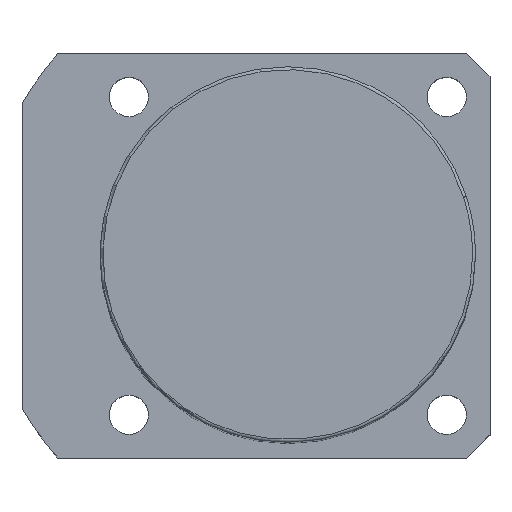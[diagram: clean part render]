
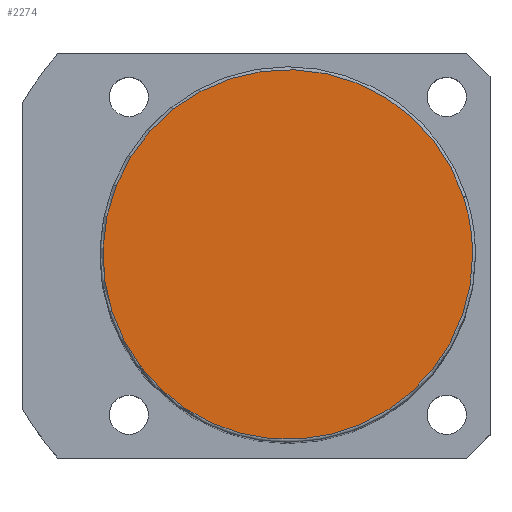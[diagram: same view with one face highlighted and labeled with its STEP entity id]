
A CAD part, top view. The second image highlights one B-rep face of the part: STEP entity #2274.
In plain terms, the highlighted planar face has unit normal (0, 0, 1).
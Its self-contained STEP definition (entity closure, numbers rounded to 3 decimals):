
#2207=CARTESIAN_POINT('',(30.434,9.889,146.0));
#2208=VERTEX_POINT('',#2207);
#2226=CARTESIAN_POINT('',(-30.434,-9.889,146.0));
#2227=VERTEX_POINT('',#2226);
#2235=CARTESIAN_POINT('',(0.0,0.0,146.0));
#2236=DIRECTION('',(0.0,0.0,1.0));
#2237=DIRECTION('',(1.0,0.0,0.0));
#2238=AXIS2_PLACEMENT_3D('',#2235,#2236,#2237);
#2239=CIRCLE('',#2238,32.0);
#2240=EDGE_CURVE('no 2119',#2208,#2227,#2239,.T.);
#2250=CARTESIAN_POINT('',(32.0,0.0,146.0));
#2251=VERTEX_POINT('',#2250);
#2252=CARTESIAN_POINT('',(0.0,0.0,146.0));
#2253=DIRECTION('',(0.0,0.0,1.0));
#2254=DIRECTION('',(1.0,0.0,0.0));
#2255=AXIS2_PLACEMENT_3D('',#2252,#2253,#2254);
#2256=CIRCLE('',#2255,32.0);
#2257=EDGE_CURVE('no 2128',#2251,#2208,#2256,.T.);
#2258=ORIENTED_EDGE('',*,*,#2257,.T.);
#2259=ORIENTED_EDGE('',*,*,#2240,.T.);
#2260=CARTESIAN_POINT('',(0.0,0.0,146.0));
#2261=DIRECTION('',(0.0,0.0,1.0));
#2262=DIRECTION('',(1.0,0.0,0.0));
#2263=AXIS2_PLACEMENT_3D('',#2260,#2261,#2262);
#2264=CIRCLE('',#2263,32.0);
#2265=EDGE_CURVE('no 2134',#2227,#2251,#2264,.T.);
#2266=ORIENTED_EDGE('',*,*,#2265,.T.);
#2267=EDGE_LOOP('',(#2258,#2259,#2266));
#2268=FACE_OUTER_BOUND('',#2267,.T.);
#2269=CARTESIAN_POINT('',(0.0,0.0,146.0));
#2270=DIRECTION('',(0.0,0.0,1.0));
#2271=DIRECTION('',(1.0,0.0,0.0));
#2272=AXIS2_PLACEMENT_3D('',#2269,#2270,#2271);
#2273=PLANE('',#2272);
#2274=ADVANCED_FACE('no 2121',(#2268),#2273,.T.);
